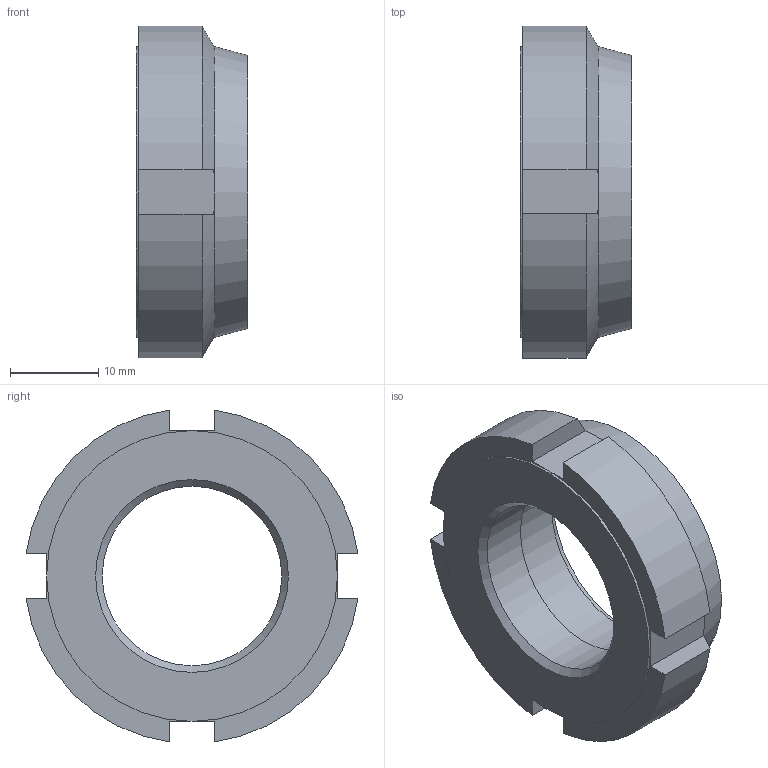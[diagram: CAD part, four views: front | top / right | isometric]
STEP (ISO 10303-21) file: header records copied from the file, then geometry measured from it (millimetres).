
FILE_DESCRIPTION( ( 'STEP AP203' ), '1' );
FILE_NAME( 'C:/Temp/Ganter_Step_05_03_2020/data/3_2/gn1804_1/Slotted locknut self-locking GN 1804.1-M22x1,5.stp', '2020-03-13T05:25:15', ( 'License CC BY-ND 4.0' ), ( 'CADENAS' ), ' ', 'PARTsolutions', ' ' );
FILE_SCHEMA( ( 'CONFIG_CONTROL_DESIGN' ) );
Length unit declared in the file: millimetre
Products named in the file (1): _Slotted locknut self-locking GN 1804.1-M22x1,5
Bounding box: 12.7 x 37.67 x 37.67 mm (x, y, z)
Volume: 8030.4 mm3; surface area: 3722.3 mm2
Topology: 1 solids, 1 shells, 34 faces, 79 edges, 49 vertices
Faces by surface type: plane 20, cylinder 8, cone 6
Full cylindrical faces by diameter (mm): 20.376 x1, 21.5 x1, 23 x1, 33 x1
Entity records: 994 total; most frequent: CARTESIAN_POINT 205, DIRECTION 152, ORIENTED_EDGE 146, EDGE_CURVE 73, AXIS2_PLACEMENT_3D 60, VERTEX_POINT 49, EDGE_LOOP 44, FACE_OUTER_BOUND 38
